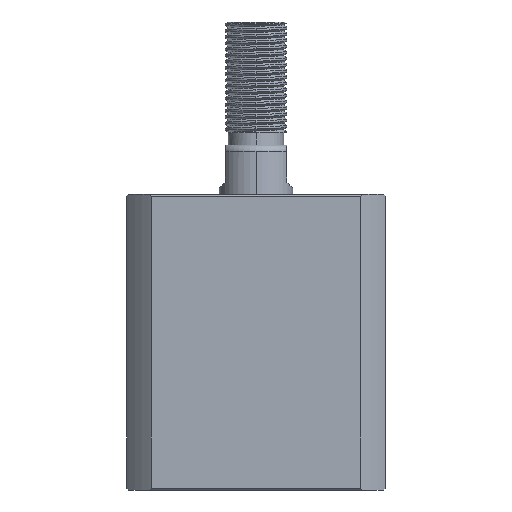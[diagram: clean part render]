
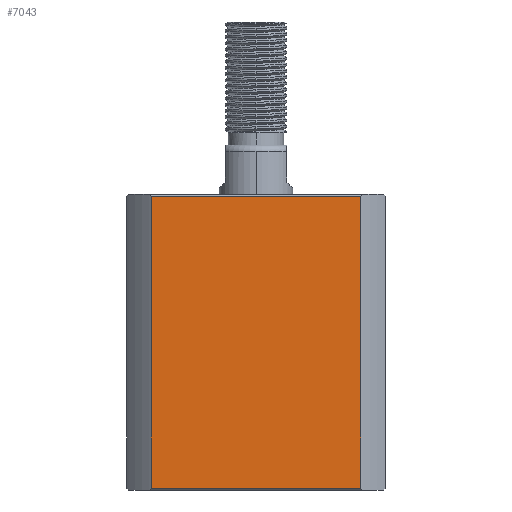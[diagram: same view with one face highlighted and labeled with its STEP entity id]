
A CAD part, left-side view. The second image highlights one B-rep face of the part: STEP entity #7043.
In plain terms, the highlighted planar face has unit normal (-1, 0, 0).
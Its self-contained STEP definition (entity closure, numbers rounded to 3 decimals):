
#136 = PLANE ( 'NONE',  #4185 ) ;
#612 = VERTEX_POINT ( 'NONE', #8384 ) ;
#867 = DIRECTION ( 'NONE',  ( 0., -1., 0. ) ) ;
#1206 = EDGE_CURVE ( 'NONE', #612, #3018, #14805, .T. ) ;
#1313 = DIRECTION ( 'NONE',  ( 0., 1., 0. ) ) ;
#2077 = EDGE_LOOP ( 'NONE', ( #9952, #4695, #11628, #13515 ) ) ;
#2410 = LINE ( 'NONE', #9959, #7473 ) ;
#2976 = VECTOR ( 'NONE', #12497, 1000. ) ;
#3018 = VERTEX_POINT ( 'NONE', #13389 ) ;
#3068 = EDGE_CURVE ( 'NONE', #14610, #6473, #2410, .T. ) ;
#4185 = AXIS2_PLACEMENT_3D ( 'NONE', #4790, #8254, #1313 ) ;
#4695 = ORIENTED_EDGE ( 'NONE', *, *, #9274, .T. ) ;
#4790 = CARTESIAN_POINT ( 'NONE',  ( -21., 21., 48. ) ) ;
#5939 = CARTESIAN_POINT ( 'NONE',  ( -21., -16.971, 47.7 ) ) ;
#6314 = VECTOR ( 'NONE', #867, 1000. ) ;
#6473 = VERTEX_POINT ( 'NONE', #10490 ) ;
#7043 = ADVANCED_FACE ( 'NONE', ( #13566 ), #136, .F. ) ;
#7388 = LINE ( 'NONE', #14777, #6314 ) ;
#7473 = VECTOR ( 'NONE', #11104, 1000. ) ;
#8254 = DIRECTION ( 'NONE',  ( 1., 0., 0. ) ) ;
#8384 = CARTESIAN_POINT ( 'NONE',  ( -21., 16.971, 0.3 ) ) ;
#8612 = VECTOR ( 'NONE', #12853, 1000. ) ;
#9124 = LINE ( 'NONE', #11272, #2976 ) ;
#9274 = EDGE_CURVE ( 'NONE', #612, #6473, #7388, .T. ) ;
#9952 = ORIENTED_EDGE ( 'NONE', *, *, #1206, .F. ) ;
#9959 = CARTESIAN_POINT ( 'NONE',  ( -21., -16.971, -252. ) ) ;
#10490 = CARTESIAN_POINT ( 'NONE',  ( -21., -16.971, 0.3 ) ) ;
#11104 = DIRECTION ( 'NONE',  ( 0., 0., -1. ) ) ;
#11272 = CARTESIAN_POINT ( 'NONE',  ( -21., 21., 47.7 ) ) ;
#11628 = ORIENTED_EDGE ( 'NONE', *, *, #3068, .F. ) ;
#11686 = CARTESIAN_POINT ( 'NONE',  ( -21., 16.971, -252. ) ) ;
#12497 = DIRECTION ( 'NONE',  ( 0., 1., 0. ) ) ;
#12853 = DIRECTION ( 'NONE',  ( 0., 0., 1. ) ) ;
#13389 = CARTESIAN_POINT ( 'NONE',  ( -21., 16.971, 47.7 ) ) ;
#13515 = ORIENTED_EDGE ( 'NONE', *, *, #14418, .T. ) ;
#13566 = FACE_OUTER_BOUND ( 'NONE', #2077, .T. ) ;
#14418 = EDGE_CURVE ( 'NONE', #14610, #3018, #9124, .T. ) ;
#14610 = VERTEX_POINT ( 'NONE', #5939 ) ;
#14777 = CARTESIAN_POINT ( 'NONE',  ( -21., 21., 0.3 ) ) ;
#14805 = LINE ( 'NONE', #11686, #8612 ) ;
